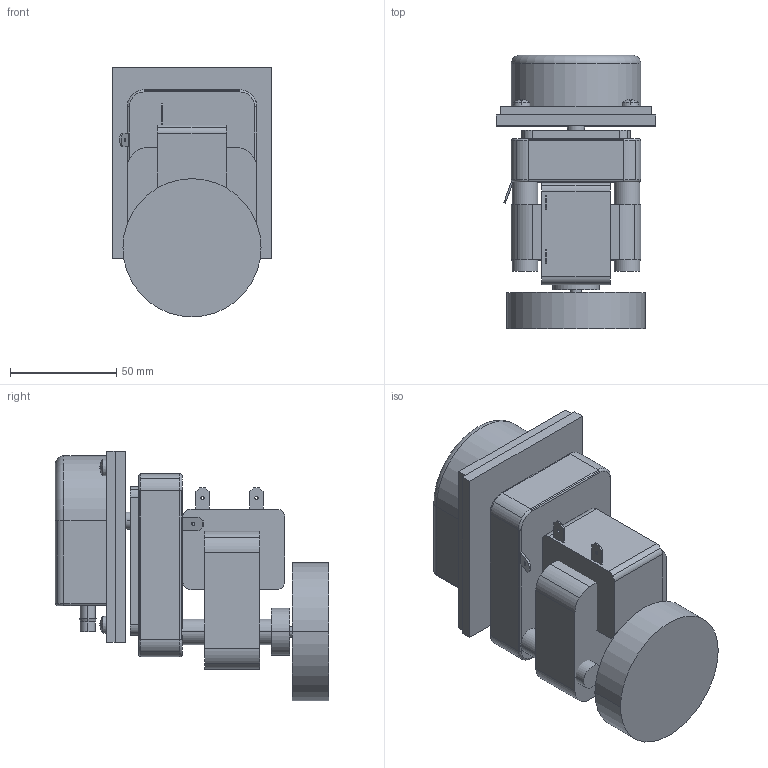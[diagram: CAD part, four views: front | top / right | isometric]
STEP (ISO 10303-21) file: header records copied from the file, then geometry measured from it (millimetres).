
FILE_DESCRIPTION(('STEP AP214'),'1');
FILE_NAME('W:/Williamsons Data/WMC/3D Files/3D Step files/tmp0.STEP','2015-08-11T10:02:42',(' '),(' '),'Spatial InterOp 3D',' ',' ');
FILE_SCHEMA(('automotive_design'));
Length unit declared in the file: millimetre
Products named in the file (21): 1; 2; 3; 4; 5; 6; 7; 8; 9; 10; 11; 12; 13; 14; 15; 16; 17; 18; 19; 20; 21
Bounding box: 75 x 128.5 x 117.5 mm (x, y, z)
Volume: 503149.3 mm3; surface area: 106788.6 mm2
Topology: 21 solids, 24 shells, 286 faces, 649 edges, 416 vertices
Faces by surface type: plane 140, cylinder 101, cone 22, torus 17, sphere 6
Entity records: 10860 total; most frequent: DIRECTION 1564, CARTESIAN_POINT 1372, ORIENTED_EDGE 1298, EDGE_CURVE 649, AXIS2_PLACEMENT_3D 608, VERTEX_POINT 416, LINE 348, VECTOR 348
